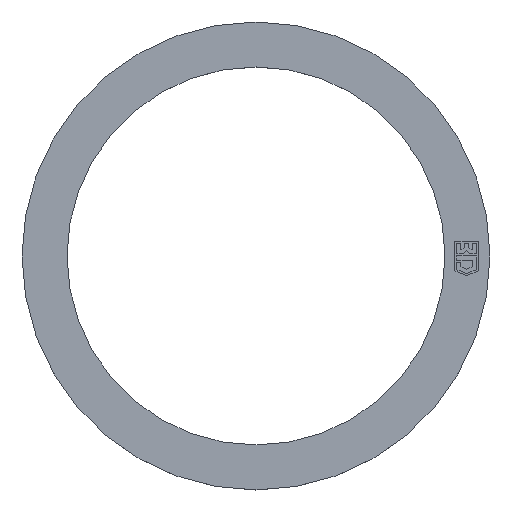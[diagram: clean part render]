
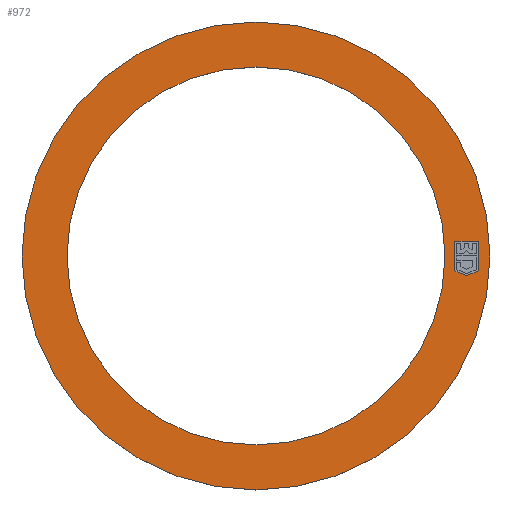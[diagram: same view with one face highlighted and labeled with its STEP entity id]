
A CAD part, top view. The second image highlights one B-rep face of the part: STEP entity #972.
In plain terms, the highlighted planar face has unit normal (0, 0, 1).
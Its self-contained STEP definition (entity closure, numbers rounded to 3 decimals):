
#510 = CARTESIAN_POINT ( 'NONE',  ( 10.5, 0., 0.8 ) ) ;
#545 = DIRECTION ( 'NONE',  ( 1., 0., 0. ) ) ;
#546 = DIRECTION ( 'NONE',  ( 0., 0., 1. ) ) ;
#547 = CARTESIAN_POINT ( 'NONE',  ( 0., 0., 0.8 ) ) ;
#548 = AXIS2_PLACEMENT_3D ( 'NONE', #547, #546, #545 ) ;
#549 = PLANE ( 'NONE',  #548 ) ;
#550 = FACE_BOUND ( 'NONE', #789, .T. ) ;
#551 = FACE_OUTER_BOUND ( 'NONE', #798, .T. ) ;
#552 = FACE_BOUND ( 'NONE', #973, .T. ) ;
#630 = CARTESIAN_POINT ( 'NONE',  ( -13., 0., 0.8 ) ) ;
#631 = CARTESIAN_POINT ( 'NONE',  ( 13., 0., 0.8 ) ) ;
#632 = DIRECTION ( 'NONE',  ( 1., 0., 0. ) ) ;
#633 = DIRECTION ( 'NONE',  ( 0., 0., 1. ) ) ;
#634 = CARTESIAN_POINT ( 'NONE',  ( 0., 0., 0.8 ) ) ;
#635 = AXIS2_PLACEMENT_3D ( 'NONE', #634, #633, #632 ) ;
#640 = CARTESIAN_POINT ( 'NONE',  ( -10.5, 0., 0.8 ) ) ;
#641 = DIRECTION ( 'NONE',  ( 1., 0., 0. ) ) ;
#642 = DIRECTION ( 'NONE',  ( 0., 0., 1. ) ) ;
#643 = CARTESIAN_POINT ( 'NONE',  ( 0., 0., 0.8 ) ) ;
#644 = AXIS2_PLACEMENT_3D ( 'NONE', #643, #642, #641 ) ;
#645 = CIRCLE ( 'NONE', #644, 10.5 ) ;
#651 = CIRCLE ( 'NONE', #635, 13. ) ;
#780 = ORIENTED_EDGE ( 'NONE', *, *, #781, .T. ) ;
#781 = EDGE_CURVE ( 'NONE', #801, #802, #1344, .T. ) ;
#782 = EDGE_CURVE ( 'NONE', #802, #783, #1340, .T. ) ;
#783 = VERTEX_POINT ( 'NONE', #1163 ) ;
#786 = ORIENTED_EDGE ( 'NONE', *, *, #933, .F. ) ;
#787 = ORIENTED_EDGE ( 'NONE', *, *, #788, .T. ) ;
#788 = EDGE_CURVE ( 'NONE', #783, #795, #1155, .T. ) ;
#789 = EDGE_LOOP ( 'NONE', ( #790, #780, #803, #787, #797 ) ) ;
#790 = ORIENTED_EDGE ( 'NONE', *, *, #799, .T. ) ;
#792 = ORIENTED_EDGE ( 'NONE', *, *, #926, .T. ) ;
#793 = ORIENTED_EDGE ( 'NONE', *, *, #794, .F. ) ;
#794 = EDGE_CURVE ( 'NONE', #975, #937, #1147, .T. ) ;
#795 = VERTEX_POINT ( 'NONE', #1142 ) ;
#796 = EDGE_CURVE ( 'NONE', #795, #800, #1141, .T. ) ;
#797 = ORIENTED_EDGE ( 'NONE', *, *, #796, .T. ) ;
#798 = EDGE_LOOP ( 'NONE', ( #804, #792 ) ) ;
#799 = EDGE_CURVE ( 'NONE', #800, #801, #1137, .T. ) ;
#800 = VERTEX_POINT ( 'NONE', #1133 ) ;
#801 = VERTEX_POINT ( 'NONE', #1132 ) ;
#802 = VERTEX_POINT ( 'NONE', #1226 ) ;
#803 = ORIENTED_EDGE ( 'NONE', *, *, #782, .T. ) ;
#804 = ORIENTED_EDGE ( 'NONE', *, *, #805, .T. ) ;
#805 = EDGE_CURVE ( 'NONE', #928, #927, #1225, .T. ) ;
#926 = EDGE_CURVE ( 'NONE', #927, #928, #651, .T. ) ;
#927 = VERTEX_POINT ( 'NONE', #631 ) ;
#928 = VERTEX_POINT ( 'NONE', #630 ) ;
#933 = EDGE_CURVE ( 'NONE', #937, #975, #645, .T. ) ;
#937 = VERTEX_POINT ( 'NONE', #640 ) ;
#972 = ADVANCED_FACE ( 'NONE', ( #552, #551, #550 ), #549, .T. ) ;
#973 = EDGE_LOOP ( 'NONE', ( #786, #793 ) ) ;
#975 = VERTEX_POINT ( 'NONE', #510 ) ;
#1132 = CARTESIAN_POINT ( 'NONE',  ( 11.7, -1.098, 0.8 ) ) ;
#1133 = CARTESIAN_POINT ( 'NONE',  ( 12.35, -0.829, 0.8 ) ) ;
#1134 = DIRECTION ( 'NONE',  ( -0.924, -0.383, 0. ) ) ;
#1135 = VECTOR ( 'NONE', #1134, 1000. ) ;
#1136 = CARTESIAN_POINT ( 'NONE',  ( 11.7, -1.098, 0.8 ) ) ;
#1137 = LINE ( 'NONE', #1136, #1135 ) ;
#1138 = DIRECTION ( 'NONE',  ( 0., -1., 0. ) ) ;
#1139 = VECTOR ( 'NONE', #1138, 1000. ) ;
#1140 = CARTESIAN_POINT ( 'NONE',  ( 12.35, 0.828, 0.8 ) ) ;
#1141 = LINE ( 'NONE', #1140, #1139 ) ;
#1142 = CARTESIAN_POINT ( 'NONE',  ( 12.35, 0.828, 0.8 ) ) ;
#1143 = DIRECTION ( 'NONE',  ( 1., 0., 0. ) ) ;
#1144 = DIRECTION ( 'NONE',  ( 0., 0., 1. ) ) ;
#1145 = CARTESIAN_POINT ( 'NONE',  ( 0., 0., 0.8 ) ) ;
#1146 = AXIS2_PLACEMENT_3D ( 'NONE', #1145, #1144, #1143 ) ;
#1147 = CIRCLE ( 'NONE', #1146, 10.5 ) ;
#1152 = DIRECTION ( 'NONE',  ( 1., 0., 0. ) ) ;
#1153 = VECTOR ( 'NONE', #1152, 1000. ) ;
#1154 = CARTESIAN_POINT ( 'NONE',  ( 11.05, 0.828, 0.8 ) ) ;
#1155 = LINE ( 'NONE', #1154, #1153 ) ;
#1163 = CARTESIAN_POINT ( 'NONE',  ( 11.05, 0.828, 0.8 ) ) ;
#1221 = DIRECTION ( 'NONE',  ( 1., 0., 0. ) ) ;
#1222 = DIRECTION ( 'NONE',  ( 0., 0., 1. ) ) ;
#1223 = CARTESIAN_POINT ( 'NONE',  ( 0., 0., 0.8 ) ) ;
#1224 = AXIS2_PLACEMENT_3D ( 'NONE', #1223, #1222, #1221 ) ;
#1225 = CIRCLE ( 'NONE', #1224, 13. ) ;
#1226 = CARTESIAN_POINT ( 'NONE',  ( 11.05, -0.829, 0.8 ) ) ;
#1337 = DIRECTION ( 'NONE',  ( 0., 1., 0. ) ) ;
#1338 = VECTOR ( 'NONE', #1337, 1000. ) ;
#1339 = CARTESIAN_POINT ( 'NONE',  ( 11.05, -0.829, 0.8 ) ) ;
#1340 = LINE ( 'NONE', #1339, #1338 ) ;
#1341 = DIRECTION ( 'NONE',  ( -0.924, 0.383, 0. ) ) ;
#1342 = VECTOR ( 'NONE', #1341, 1000. ) ;
#1343 = CARTESIAN_POINT ( 'NONE',  ( 11.7, -1.098, 0.8 ) ) ;
#1344 = LINE ( 'NONE', #1343, #1342 ) ;
